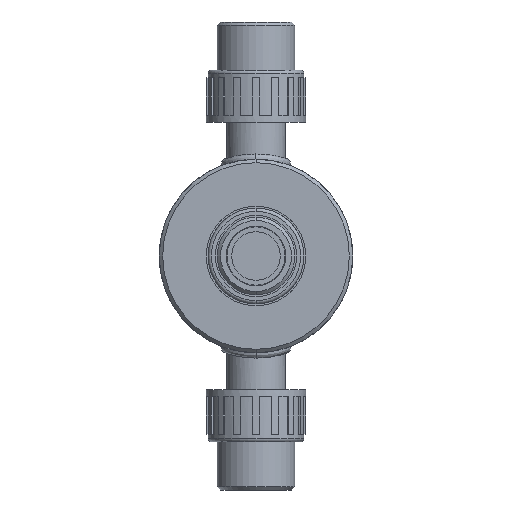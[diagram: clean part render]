
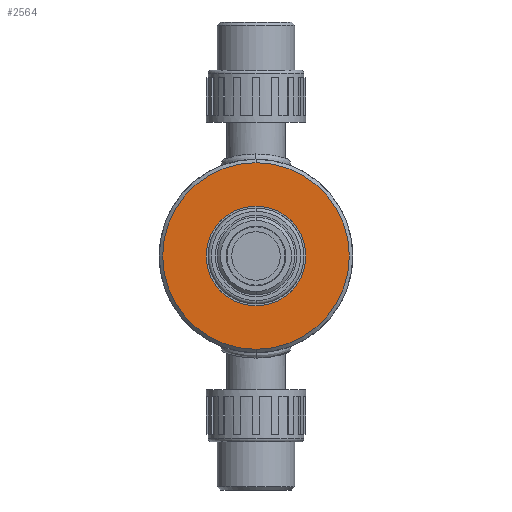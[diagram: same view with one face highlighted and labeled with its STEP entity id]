
A CAD part, front view. The second image highlights one B-rep face of the part: STEP entity #2564.
In plain terms, the highlighted planar face has unit normal (0, -1, 0).
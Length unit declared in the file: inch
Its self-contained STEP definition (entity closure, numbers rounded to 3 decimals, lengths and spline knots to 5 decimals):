
#1112 = FACE_BOUND ( 'NONE', #1954, .T. ) ;
#1188 = DIRECTION ( 'NONE',  ( 0., 1., 0. ) ) ;
#1385 = EDGE_CURVE ( 'NONE', #14041, #4500, #11095, .T. ) ;
#1433 = FACE_OUTER_BOUND ( 'NONE', #12949, .T. ) ;
#1850 = AXIS2_PLACEMENT_3D ( 'NONE', #9643, #11874, #5212 ) ;
#1954 = EDGE_LOOP ( 'NONE', ( #12887, #3644 ) ) ;
#2492 = CIRCLE ( 'NONE', #3295, 0.618 ) ;
#2564 = ADVANCED_FACE ( 'NONE', ( #1112, #1433 ), #8535, .F. ) ;
#3140 = CARTESIAN_POINT ( 'NONE',  ( 0., 0., -0.618 ) ) ;
#3295 = AXIS2_PLACEMENT_3D ( 'NONE', #7877, #1188, #9001 ) ;
#3310 = CARTESIAN_POINT ( 'NONE',  ( 0., 0., 0. ) ) ;
#3644 = ORIENTED_EDGE ( 'NONE', *, *, #3655, .T. ) ;
#3655 = EDGE_CURVE ( 'NONE', #13079, #6218, #2492, .T. ) ;
#4339 = CARTESIAN_POINT ( 'NONE',  ( 0., 0., 0. ) ) ;
#4417 = EDGE_CURVE ( 'NONE', #6218, #13079, #12820, .T. ) ;
#4448 = DIRECTION ( 'NONE',  ( 0., 0., 1. ) ) ;
#4500 = VERTEX_POINT ( 'NONE', #7916 ) ;
#4965 = CARTESIAN_POINT ( 'NONE',  ( 0., 0., 0. ) ) ;
#5212 = DIRECTION ( 'NONE',  ( 0., 0., 1. ) ) ;
#5339 = AXIS2_PLACEMENT_3D ( 'NONE', #4339, #12152, #5480 ) ;
#5480 = DIRECTION ( 'NONE',  ( 0., 0., 1. ) ) ;
#5796 = CARTESIAN_POINT ( 'NONE',  ( 0., 0., 0.618 ) ) ;
#5840 = CARTESIAN_POINT ( 'NONE',  ( 0., 0., -1.663 ) ) ;
#6082 = DIRECTION ( 'NONE',  ( 0., 0., 1. ) ) ;
#6218 = VERTEX_POINT ( 'NONE', #5796 ) ;
#6260 = AXIS2_PLACEMENT_3D ( 'NONE', #4965, #12769, #6082 ) ;
#7524 = ORIENTED_EDGE ( 'NONE', *, *, #7951, .T. ) ;
#7877 = CARTESIAN_POINT ( 'NONE',  ( 0., 0., 0. ) ) ;
#7916 = CARTESIAN_POINT ( 'NONE',  ( 0., 0., 1.663 ) ) ;
#7951 = EDGE_CURVE ( 'NONE', #4500, #14041, #11815, .T. ) ;
#8473 = AXIS2_PLACEMENT_3D ( 'NONE', #3310, #11133, #4448 ) ;
#8535 = PLANE ( 'NONE',  #1850 ) ;
#9001 = DIRECTION ( 'NONE',  ( 0., 0., 1. ) ) ;
#9236 = ORIENTED_EDGE ( 'NONE', *, *, #1385, .T. ) ;
#9643 = CARTESIAN_POINT ( 'NONE',  ( 0., 0., 0. ) ) ;
#11095 = CIRCLE ( 'NONE', #6260, 1.663 ) ;
#11133 = DIRECTION ( 'NONE',  ( 0., 1., 0. ) ) ;
#11815 = CIRCLE ( 'NONE', #5339, 1.663 ) ;
#11874 = DIRECTION ( 'NONE',  ( 0., 1., 0. ) ) ;
#12152 = DIRECTION ( 'NONE',  ( 0., -1., 0. ) ) ;
#12769 = DIRECTION ( 'NONE',  ( 0., -1., 0. ) ) ;
#12820 = CIRCLE ( 'NONE', #8473, 0.618 ) ;
#12887 = ORIENTED_EDGE ( 'NONE', *, *, #4417, .T. ) ;
#12949 = EDGE_LOOP ( 'NONE', ( #7524, #9236 ) ) ;
#13079 = VERTEX_POINT ( 'NONE', #3140 ) ;
#14041 = VERTEX_POINT ( 'NONE', #5840 ) ;
